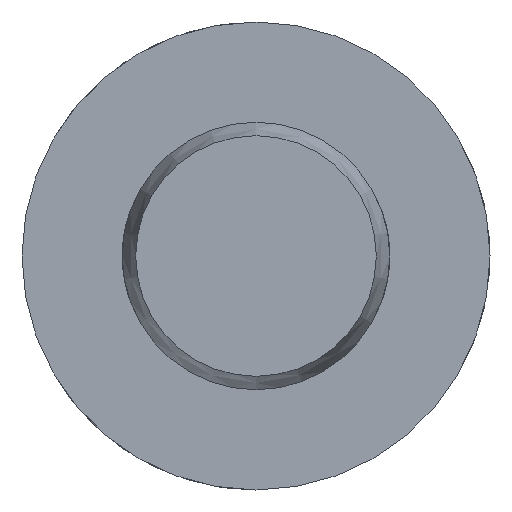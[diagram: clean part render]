
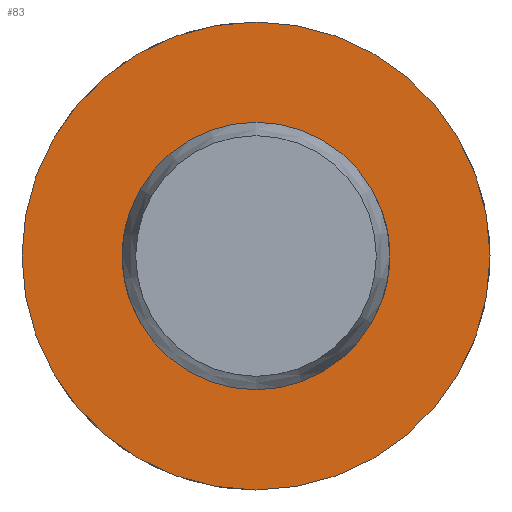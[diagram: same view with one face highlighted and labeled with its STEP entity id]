
A CAD part, left-side view. The second image highlights one B-rep face of the part: STEP entity #83.
In plain terms, the highlighted planar face has unit normal (-1, 0, 0).
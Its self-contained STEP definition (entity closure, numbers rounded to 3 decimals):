
#83 = ADVANCED_FACE( '', ( #128, #129 ), #130, .F. );
#128 = FACE_OUTER_BOUND( '', #204, .T. );
#129 = FACE_BOUND( '', #205, .T. );
#130 = PLANE( '', #206 );
#204 = EDGE_LOOP( '', ( #318 ) );
#205 = EDGE_LOOP( '', ( #319 ) );
#206 = AXIS2_PLACEMENT_3D( '', #320, #321, #322 );
#318 = ORIENTED_EDGE( '', *, *, #481, .F. );
#319 = ORIENTED_EDGE( '', *, *, #471, .T. );
#320 = CARTESIAN_POINT( '', ( 48.2, 4., 0. ) );
#321 = DIRECTION( '', ( 1., 0., 0. ) );
#322 = DIRECTION( '', ( 0., 0., -1. ) );
#471 = EDGE_CURVE( '', #541, #541, #542, .T. );
#481 = EDGE_CURVE( '', #559, #559, #560, .T. );
#541 = VERTEX_POINT( '', #726 );
#542 = CIRCLE( '', #727, 4. );
#559 = VERTEX_POINT( '', #861 );
#560 = CIRCLE( '', #862, 7. );
#726 = CARTESIAN_POINT( '', ( 48.2, 0., -4. ) );
#727 = AXIS2_PLACEMENT_3D( '', #923, #924, #925 );
#861 = CARTESIAN_POINT( '', ( 48.2, 0., -7. ) );
#862 = AXIS2_PLACEMENT_3D( '', #944, #945, #946 );
#923 = CARTESIAN_POINT( '', ( 48.2, 0., 0. ) );
#924 = DIRECTION( '', ( 1., 0., 0. ) );
#925 = DIRECTION( '', ( 0., 0., -1. ) );
#944 = CARTESIAN_POINT( '', ( 48.2, 0., 0. ) );
#945 = DIRECTION( '', ( 1., 0., 0. ) );
#946 = DIRECTION( '', ( 0., 0., -1. ) );
